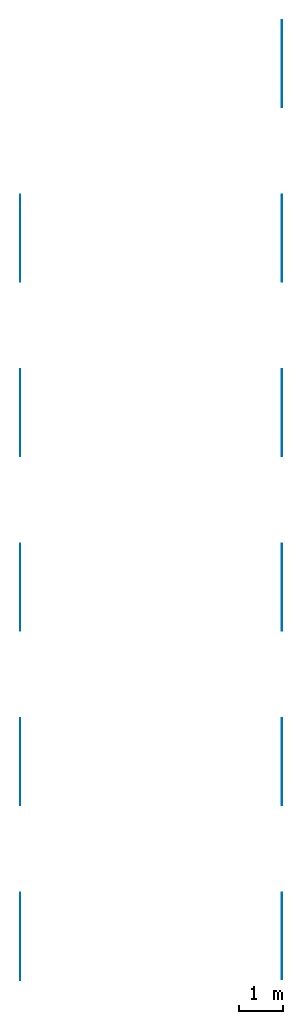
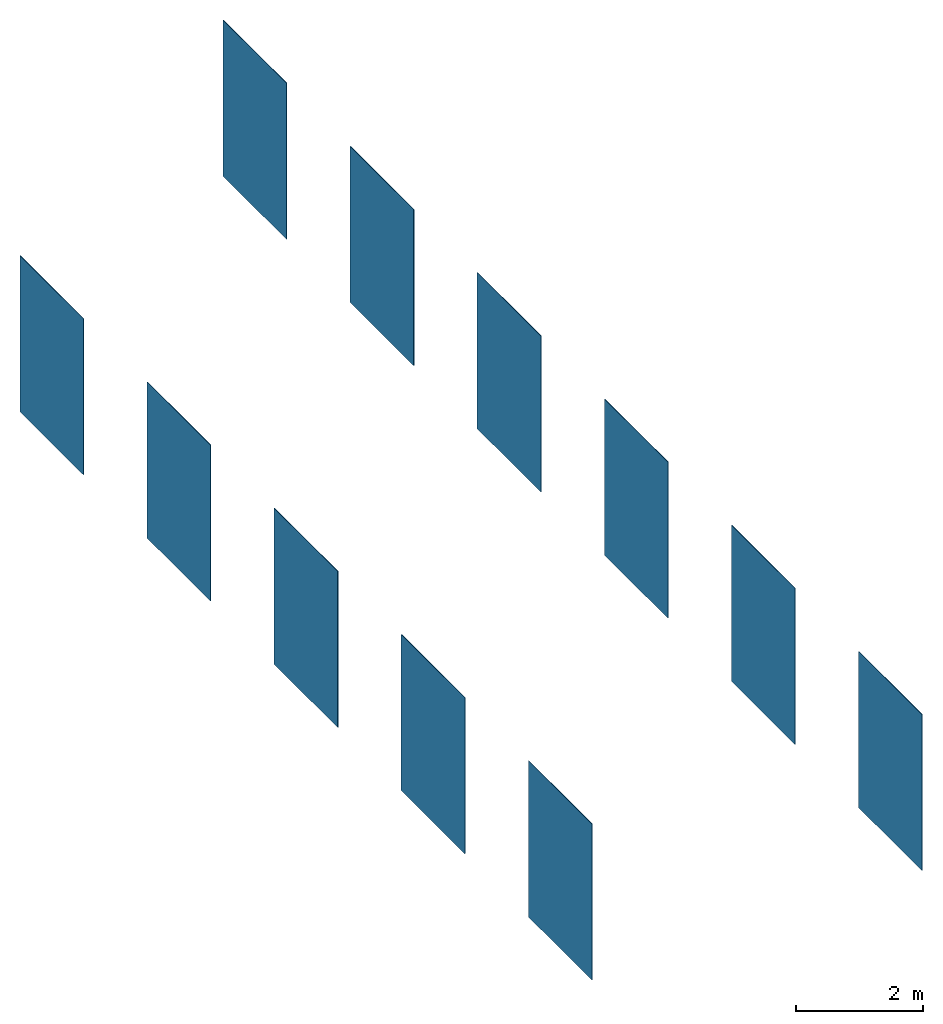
# One storey: 11 walls.
"""IFC2X3 building model written with IfcOpenShell, lengths in millimetres."""

from ifc_helpers import new_model, entity, si_unit, converted_unit, derived_unit, direction, frame, frame_2d, origin, place, context, subcontext, project, spatial, rectangle, extrude, material, layer, layer_set, layer_usage, type_object, element, save


model = new_model("IFC2X3")

# Units and contexts
model_context = context("Model", 3, precision=0.01, world=origin(), true_north=direction((6.12303176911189e-17, 1.0)))
body_context = subcontext(model_context, "Body", "Model", "MODEL_VIEW")
ifc_project = project(units=[si_unit("LENGTHUNIT", "METRE", prefix="MILLI"), si_unit("AREAUNIT", "SQUARE_METRE"), si_unit("VOLUMEUNIT", "CUBIC_METRE"), converted_unit("PLANEANGLEUNIT", "DEGREE", entity("IfcRatioMeasure", 0.0174532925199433), si_unit("PLANEANGLEUNIT", "RADIAN"), dimensions=[0, 0, 0, 0, 0, 0, 0]), si_unit("MASSUNIT", "GRAM", prefix="KILO"), derived_unit("MASSDENSITYUNIT", [(si_unit("MASSUNIT", "GRAM", prefix="KILO"), 1), (si_unit("LENGTHUNIT", "METRE"), -3)]), si_unit("TIMEUNIT", "SECOND"), si_unit("FREQUENCYUNIT", "HERTZ"), si_unit("THERMODYNAMICTEMPERATUREUNIT", "DEGREE_CELSIUS"), derived_unit("THERMALTRANSMITTANCEUNIT", [(si_unit("MASSUNIT", "GRAM", prefix="KILO"), 1), (si_unit("THERMODYNAMICTEMPERATUREUNIT", "KELVIN"), -1), (si_unit("TIMEUNIT", "SECOND"), -3)]), derived_unit("VOLUMETRICFLOWRATEUNIT", [(si_unit("LENGTHUNIT", "METRE"), 3), (si_unit("TIMEUNIT", "SECOND"), -1)]), si_unit("ELECTRICCURRENTUNIT", "AMPERE"), si_unit("ELECTRICVOLTAGEUNIT", "VOLT"), si_unit("POWERUNIT", "WATT"), si_unit("FORCEUNIT", "NEWTON", prefix="KILO"), si_unit("ILLUMINANCEUNIT", "LUX"), si_unit("LUMINOUSFLUXUNIT", "LUMEN"), si_unit("LUMINOUSINTENSITYUNIT", "CANDELA"), derived_unit("USERDEFINED", [(si_unit("MASSUNIT", "GRAM", prefix="KILO"), -1), (si_unit("LENGTHUNIT", "METRE"), -2), (si_unit("TIMEUNIT", "SECOND"), 3), (si_unit("LUMINOUSFLUXUNIT", "LUMEN"), 1)]), derived_unit("LINEARVELOCITYUNIT", [(si_unit("LENGTHUNIT", "METRE"), 1), (si_unit("TIMEUNIT", "SECOND"), -1)]), si_unit("PRESSUREUNIT", "PASCAL"), derived_unit("USERDEFINED", [(si_unit("LENGTHUNIT", "METRE"), -2), (si_unit("MASSUNIT", "GRAM", prefix="KILO"), 1), (si_unit("TIMEUNIT", "SECOND"), -2)])], contexts=[model_context])

# Site, building, storey
site_placement = place(None, origin())
site = spatial("IfcSite", under=ifc_project, at=site_placement, Name="Default", CompositionType="ELEMENT")
building_placement = place(site_placement, origin())
building = spatial("IfcBuilding", under=site, at=building_placement, CompositionType="ELEMENT")
storey_placement = place(building_placement, origin())
storey = spatial("IfcBuildingStorey", under=building, at=storey_placement, Name="Level 1", CompositionType="ELEMENT", Elevation=0.0)

# Walls
ifc_material_1 = material(Name="PGR_AnticColonial_CeramicTiles_Nazari_Ifrane-115x115mm-100213784")
ifc_layer_1 = layer(ifc_material_1, 11.0)
ifc_layer_set_1 = layer_set([ifc_layer_1], Name="Basic Wall:PGR_AnticColonial_CeramicTiles_Nazari_Ifrane-115x115mm-100213784")
ifc_layer_usage_1 = layer_usage(ifc_layer_set_1, "AXIS2", "POSITIVE", -5.5)
wall_type_1 = type_object("IfcWallType", Name="Basic Wall:PGR_AnticColonial_CeramicTiles_Nazari_Ifrane-115x115mm-100213784", PredefinedType="STANDARD", material=ifc_layer_set_1)
wall_1_placement = place(storey_placement, frame((3521.57742659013, -2501.98267476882, 0.0), z_axis=(0.0, 0.0, 1.0), x_axis=(0.0, -1.0, 0.0)))
element("IfcWallStandardCase", 1, at=wall_1_placement, inside=storey, type_object=wall_type_1, material=ifc_layer_usage_1, Name="Basic Wall:PGR_AnticColonial_CeramicTiles_Nazari_Ifrane-115x115mm-100213784", ObjectType="Basic Wall:PGR_AnticColonial_CeramicTiles_Nazari_Ifrane-115x115mm-100213784", context=body_context, shape_type="SweptSolid", body=[
    extrude(rectangle(XDim=2000.0, YDim=10.9999999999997, at=frame_2d((1000.0, 7.54951656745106e-15), x_axis=(-1.0, 0.0))), origin(), (0.0, 0.0, 1.0), 3000.00000000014),
])
ifc_material_2 = material(Name="PGR_AnticColonial_CeramicTiles_Nazari_Fes-115x115mm-100213766")
ifc_layer_2 = layer(ifc_material_2, 11.0)
ifc_layer_set_2 = layer_set([ifc_layer_2], Name="Basic Wall:PGR_AnticColonial_CeramicTiles_Nazari_Fes-115x115mm-100213766")
ifc_layer_usage_2 = layer_usage(ifc_layer_set_2, "AXIS2", "POSITIVE", -5.5)
wall_type_2 = type_object("IfcWallType", Name="Basic Wall:PGR_AnticColonial_CeramicTiles_Nazari_Fes-115x115mm-100213766", PredefinedType="STANDARD", material=ifc_layer_set_2)
wall_2_placement = place(storey_placement, frame((3521.57742659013, 1498.01732523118, 0.0), z_axis=(0.0, 0.0, 1.0), x_axis=(0.0, -1.0, 0.0)))
element("IfcWallStandardCase", 2, at=wall_2_placement, inside=storey, type_object=wall_type_2, material=ifc_layer_usage_2, Name="Basic Wall:PGR_AnticColonial_CeramicTiles_Nazari_Fes-115x115mm-100213766", ObjectType="Basic Wall:PGR_AnticColonial_CeramicTiles_Nazari_Fes-115x115mm-100213766", context=body_context, shape_type="SweptSolid", body=[
    extrude(rectangle(XDim=2000.0, YDim=10.9999999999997, at=frame_2d((1000.0, 7.54951656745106e-15), x_axis=(-1.0, 0.0))), origin(), (0.0, 0.0, 1.0), 3000.00000000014),
])
ifc_material_3 = material(Name="PGR_AnticColonial_CeramicTiles_Nazari_Chauen-115x115mm-100213777")
ifc_layer_3 = layer(ifc_material_3, 11.0)
ifc_layer_set_3 = layer_set([ifc_layer_3], Name="Basic Wall:PGR_AnticColonial_CeramicTiles_Nazari_Chauen-115x115mm-100213777")
ifc_layer_usage_3 = layer_usage(ifc_layer_set_3, "AXIS2", "POSITIVE", -5.5)
wall_type_3 = type_object("IfcWallType", Name="Basic Wall:PGR_AnticColonial_CeramicTiles_Nazari_Chauen-115x115mm-100213777", PredefinedType="STANDARD", material=ifc_layer_set_3)
wall_3_placement = place(storey_placement, frame((3521.57742659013, 5498.01732523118, 0.0), z_axis=(0.0, 0.0, 1.0), x_axis=(0.0, -1.0, 0.0)))
element("IfcWallStandardCase", 3, at=wall_3_placement, inside=storey, type_object=wall_type_3, material=ifc_layer_usage_3, Name="Basic Wall:PGR_AnticColonial_CeramicTiles_Nazari_Chauen-115x115mm-100213777", ObjectType="Basic Wall:PGR_AnticColonial_CeramicTiles_Nazari_Chauen-115x115mm-100213777", context=body_context, shape_type="SweptSolid", body=[
    extrude(rectangle(XDim=2000.0, YDim=10.9999999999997, at=frame_2d((1000.0, 7.54951656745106e-15), x_axis=(-1.0, 0.0))), origin(), (0.0, 0.0, 1.0), 3000.00000000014),
])
ifc_material_4 = material(Name="PGR_AnticColonial_CeramicTiles_Nazari_Casablanca_Mate-115x115mm-100243581")
ifc_layer_4 = layer(ifc_material_4, 11.0)
ifc_layer_set_4 = layer_set([ifc_layer_4], Name="Basic Wall:PGR_AnticColonial_CeramicTiles_Nazari_Casablanca_Mate-115x115mm-100243581")
ifc_layer_usage_4 = layer_usage(ifc_layer_set_4, "AXIS2", "POSITIVE", -5.5)
wall_type_4 = type_object("IfcWallType", Name="Basic Wall:PGR_AnticColonial_CeramicTiles_Nazari_Casablanca_Mate-115x115mm-100243581", PredefinedType="STANDARD", material=ifc_layer_set_4)
wall_4_placement = place(storey_placement, frame((3521.57742659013, 9498.01732523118, 0.0), z_axis=(0.0, 0.0, 1.0), x_axis=(0.0, -1.0, 0.0)))
element("IfcWallStandardCase", 4, at=wall_4_placement, inside=storey, type_object=wall_type_4, material=ifc_layer_usage_4, Name="Basic Wall:PGR_AnticColonial_CeramicTiles_Nazari_Casablanca_Mate-115x115mm-100243581", ObjectType="Basic Wall:PGR_AnticColonial_CeramicTiles_Nazari_Casablanca_Mate-115x115mm-100243581", context=body_context, shape_type="SweptSolid", body=[
    extrude(rectangle(XDim=2000.0, YDim=10.9999999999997, at=frame_2d((1000.0, 7.54951656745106e-15), x_axis=(-1.0, 0.0))), origin(), (0.0, 0.0, 1.0), 3000.00000000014),
])
ifc_material_5 = material(Name="PGR_AnticColonial_CeramicTiles_Nazari_Casablanca_Brillo-115x115mm-100243592")
ifc_layer_5 = layer(ifc_material_5, 11.0)
ifc_layer_set_5 = layer_set([ifc_layer_5], Name="Basic Wall:PGR_AnticColonial_CeramicTiles_Nazari_Casablanca_Brillo-115x115mm-100243592")
ifc_layer_usage_5 = layer_usage(ifc_layer_set_5, "AXIS2", "POSITIVE", -5.5)
wall_type_5 = type_object("IfcWallType", Name="Basic Wall:PGR_AnticColonial_CeramicTiles_Nazari_Casablanca_Brillo-115x115mm-100243592", PredefinedType="STANDARD", material=ifc_layer_set_5)
wall_5_placement = place(storey_placement, frame((3521.57742659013, 13498.0173252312, 0.0), z_axis=(0.0, 0.0, 1.0), x_axis=(0.0, -1.0, 0.0)))
element("IfcWallStandardCase", 5, at=wall_5_placement, inside=storey, type_object=wall_type_5, material=ifc_layer_usage_5, Name="Basic Wall:PGR_AnticColonial_CeramicTiles_Nazari_Casablanca_Brillo-115x115mm-100243592", ObjectType="Basic Wall:PGR_AnticColonial_CeramicTiles_Nazari_Casablanca_Brillo-115x115mm-100243592", context=body_context, shape_type="SweptSolid", body=[
    extrude(rectangle(XDim=2000.0, YDim=10.9999999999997, at=frame_2d((1000.0, 7.54951656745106e-15), x_axis=(-1.0, 0.0))), origin(), (0.0, 0.0, 1.0), 3000.00000000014),
])
ifc_material_6 = material(Name="PGR_AnticColonial_CeramicTiles_Nazari_Asilah-115x115mm-100213765")
ifc_layer_6 = layer(ifc_material_6, 11.0)
ifc_layer_set_6 = layer_set([ifc_layer_6], Name="Basic Wall:PGR_AnticColonial_CeramicTiles_Nazari_Asilah-115x115mm-100213765")
ifc_layer_usage_6 = layer_usage(ifc_layer_set_6, "AXIS2", "POSITIVE", -5.5)
wall_type_6 = type_object("IfcWallType", Name="Basic Wall:PGR_AnticColonial_CeramicTiles_Nazari_Asilah-115x115mm-100213765", PredefinedType="STANDARD", material=ifc_layer_set_6)
wall_6_placement = place(storey_placement, frame((3521.57742659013, 17498.0173252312, 0.0), z_axis=(0.0, 0.0, 1.0), x_axis=(0.0, -1.0, 0.0)))
element("IfcWallStandardCase", 6, at=wall_6_placement, inside=storey, type_object=wall_type_6, material=ifc_layer_usage_6, Name="Basic Wall:PGR_AnticColonial_CeramicTiles_Nazari_Asilah-115x115mm-100213765", ObjectType="Basic Wall:PGR_AnticColonial_CeramicTiles_Nazari_Asilah-115x115mm-100213765", context=body_context, shape_type="SweptSolid", body=[
    extrude(rectangle(XDim=2000.0, YDim=10.9999999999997, at=frame_2d((1000.0, 7.54951656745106e-15), x_axis=(-1.0, 0.0))), origin(), (0.0, 0.0, 1.0), 3000.00000000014),
])
ifc_material_7 = material(Name="PGR_AnticColonial_CeramicTiles_Nazari_Yadida-115x115mm-100243601")
ifc_layer_7 = layer(ifc_material_7, 11.0)
ifc_layer_set_7 = layer_set([ifc_layer_7], Name="Basic Wall:PGR_AnticColonial_CeramicTiles_Nazari_Yadida-115x115mm-100243601")
ifc_layer_usage_7 = layer_usage(ifc_layer_set_7, "AXIS2", "POSITIVE", -5.5)
wall_type_7 = type_object("IfcWallType", Name="Basic Wall:PGR_AnticColonial_CeramicTiles_Nazari_Yadida-115x115mm-100243601", PredefinedType="STANDARD", material=ifc_layer_set_7)
wall_7_placement = place(storey_placement, frame((-2478.42257340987, -2501.98267476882, 0.0), z_axis=(0.0, 0.0, 1.0), x_axis=(0.0, -1.0, 0.0)))
element("IfcWallStandardCase", 7, at=wall_7_placement, inside=storey, type_object=wall_type_7, material=ifc_layer_usage_7, Name="Basic Wall:PGR_AnticColonial_CeramicTiles_Nazari_Yadida-115x115mm-100243601", ObjectType="Basic Wall:PGR_AnticColonial_CeramicTiles_Nazari_Yadida-115x115mm-100243601", context=body_context, shape_type="SweptSolid", body=[
    extrude(rectangle(XDim=2000.0, YDim=10.9999999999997, at=frame_2d((1000.0, 7.54951656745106e-15), x_axis=(-1.0, 0.0))), origin(), (0.0, 0.0, 1.0), 3000.00000000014),
])
ifc_material_8 = material(Name="PGR_AnticColonial_CeramicTiles_Nazari_Sale-115x115mm-100220354")
ifc_layer_8 = layer(ifc_material_8, 11.0)
ifc_layer_set_8 = layer_set([ifc_layer_8], Name="Basic Wall:PGR_AnticColonial_CeramicTiles_Nazari_Sale-115x115mm-100220354")
ifc_layer_usage_8 = layer_usage(ifc_layer_set_8, "AXIS2", "POSITIVE", -5.5)
wall_type_8 = type_object("IfcWallType", Name="Basic Wall:PGR_AnticColonial_CeramicTiles_Nazari_Sale-115x115mm-100220354", PredefinedType="STANDARD", material=ifc_layer_set_8)
wall_8_placement = place(storey_placement, frame((-2478.42257340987, 1498.01732523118, 0.0), z_axis=(0.0, 0.0, 1.0), x_axis=(0.0, -1.0, 0.0)))
element("IfcWallStandardCase", 8, at=wall_8_placement, inside=storey, type_object=wall_type_8, material=ifc_layer_usage_8, Name="Basic Wall:PGR_AnticColonial_CeramicTiles_Nazari_Sale-115x115mm-100220354", ObjectType="Basic Wall:PGR_AnticColonial_CeramicTiles_Nazari_Sale-115x115mm-100220354", context=body_context, shape_type="SweptSolid", body=[
    extrude(rectangle(XDim=2000.0, YDim=10.9999999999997, at=frame_2d((1000.0, 7.54951656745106e-15), x_axis=(-1.0, 0.0))), origin(), (0.0, 0.0, 1.0), 3000.00000000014),
])
ifc_material_9 = material(Name="PGR_AnticColonial_CeramicTiles_Nazari_Safi-115x115mm-100223245")
ifc_layer_9 = layer(ifc_material_9, 11.0)
ifc_layer_set_9 = layer_set([ifc_layer_9], Name="Basic Wall:PGR_AnticColonial_CeramicTiles_Nazari_Safi-115x115mm-100223245")
ifc_layer_usage_9 = layer_usage(ifc_layer_set_9, "AXIS2", "POSITIVE", -5.5)
wall_type_9 = type_object("IfcWallType", Name="Basic Wall:PGR_AnticColonial_CeramicTiles_Nazari_Safi-115x115mm-100223245", PredefinedType="STANDARD", material=ifc_layer_set_9)
wall_9_placement = place(storey_placement, frame((-2478.42257340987, 5498.01732523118, 0.0), z_axis=(0.0, 0.0, 1.0), x_axis=(0.0, -1.0, 0.0)))
element("IfcWallStandardCase", 9, at=wall_9_placement, inside=storey, type_object=wall_type_9, material=ifc_layer_usage_9, Name="Basic Wall:PGR_AnticColonial_CeramicTiles_Nazari_Safi-115x115mm-100223245", ObjectType="Basic Wall:PGR_AnticColonial_CeramicTiles_Nazari_Safi-115x115mm-100223245", context=body_context, shape_type="SweptSolid", body=[
    extrude(rectangle(XDim=2000.0, YDim=10.9999999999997, at=frame_2d((1000.0, 7.54951656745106e-15), x_axis=(-1.0, 0.0))), origin(), (0.0, 0.0, 1.0), 3000.00000000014),
])
ifc_material_10 = material(Name="PGR_AnticColonial_CeramicTiles_Nazari_Rabat-115x115mm-100243567")
ifc_layer_10 = layer(ifc_material_10, 11.0)
ifc_layer_set_10 = layer_set([ifc_layer_10], Name="Basic Wall:PGR_AnticColonial_CeramicTiles_Nazari_Rabat-115x115mm-100243567")
ifc_layer_usage_10 = layer_usage(ifc_layer_set_10, "AXIS2", "POSITIVE", -5.5)
wall_type_10 = type_object("IfcWallType", Name="Basic Wall:PGR_AnticColonial_CeramicTiles_Nazari_Rabat-115x115mm-100243567", PredefinedType="STANDARD", material=ifc_layer_set_10)
wall_10_placement = place(storey_placement, frame((-2478.42257340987, 9498.01732523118, 0.0), z_axis=(0.0, 0.0, 1.0), x_axis=(0.0, -1.0, 0.0)))
element("IfcWallStandardCase", 10, at=wall_10_placement, inside=storey, type_object=wall_type_10, material=ifc_layer_usage_10, Name="Basic Wall:PGR_AnticColonial_CeramicTiles_Nazari_Rabat-115x115mm-100243567", ObjectType="Basic Wall:PGR_AnticColonial_CeramicTiles_Nazari_Rabat-115x115mm-100243567", context=body_context, shape_type="SweptSolid", body=[
    extrude(rectangle(XDim=2000.0, YDim=10.9999999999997, at=frame_2d((1000.0, 7.54951656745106e-15), x_axis=(-1.0, 0.0))), origin(), (0.0, 0.0, 1.0), 3000.00000000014),
])
ifc_material_11 = material(Name="PGR_AnticColonial_CeramicTiles_Nazari_Marrakech-115x115mm-100213785")
ifc_layer_11 = layer(ifc_material_11, 11.0)
ifc_layer_set_11 = layer_set([ifc_layer_11], Name="Basic Wall:PGR_AnticColonial_CeramicTiles_Nazari_Marrakech-115x115mm-100213785")
ifc_layer_usage_11 = layer_usage(ifc_layer_set_11, "AXIS2", "POSITIVE", -5.5)
wall_type_11 = type_object("IfcWallType", Name="Basic Wall:PGR_AnticColonial_CeramicTiles_Nazari_Marrakech-115x115mm-100213785", PredefinedType="STANDARD", material=ifc_layer_set_11)
wall_11_placement = place(storey_placement, frame((-2478.42257340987, 13498.0173252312, 0.0), z_axis=(0.0, 0.0, 1.0), x_axis=(0.0, -1.0, 0.0)))
element("IfcWallStandardCase", 11, at=wall_11_placement, inside=storey, type_object=wall_type_11, material=ifc_layer_usage_11, Name="Basic Wall:PGR_AnticColonial_CeramicTiles_Nazari_Marrakech-115x115mm-100213785", ObjectType="Basic Wall:PGR_AnticColonial_CeramicTiles_Nazari_Marrakech-115x115mm-100213785", context=body_context, shape_type="SweptSolid", body=[
    extrude(rectangle(XDim=2000.0, YDim=10.9999999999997, at=frame_2d((1000.0, 7.54951656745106e-15), x_axis=(-1.0, 0.0))), origin(), (0.0, 0.0, 1.0), 3000.00000000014),
])

save(model, "model.ifc")
